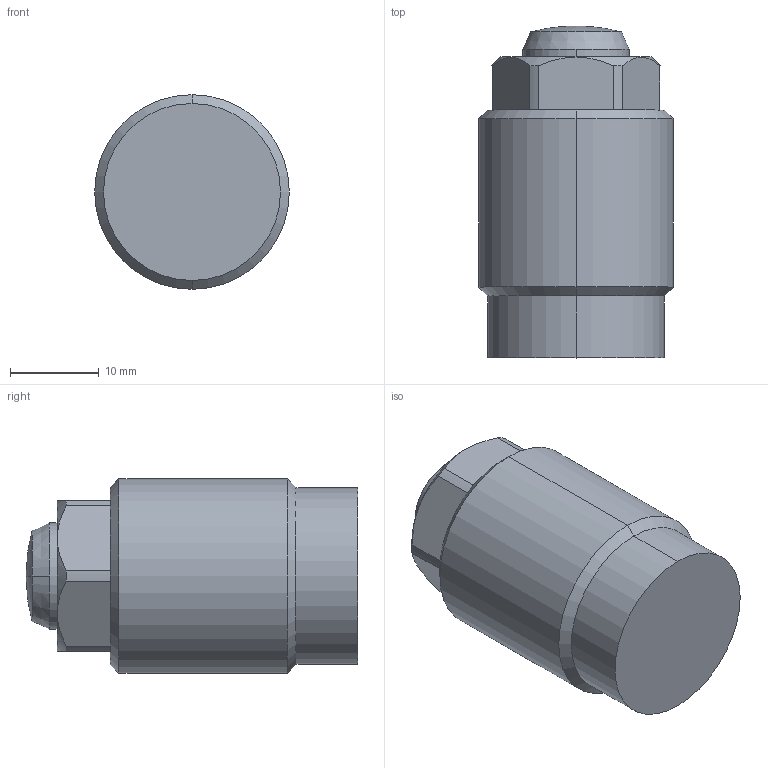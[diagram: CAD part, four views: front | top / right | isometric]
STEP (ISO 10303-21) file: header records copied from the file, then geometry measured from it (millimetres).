
FILE_DESCRIPTION (( 'STEP AP214' ), '1' );
FILE_NAME ('TC-12A.STEP', '2021-10-19T00:41:01', ( '' ), ( '' ), 'SwSTEP 2.0', 'SolidWorks 2016', '' );
FILE_SCHEMA (( 'AUTOMOTIVE_DESIGN' ));
Length unit declared in the file: millimetre
Products named in the file (1): TC-12A
Bounding box: 22 x 37.5 x 22 mm (x, y, z)
Volume: 11919.6 mm3; surface area: 2978.3 mm2
Topology: 1 solids, 1 shells, 31 faces, 74 edges, 47 vertices
Faces by surface type: cylinder 12, plane 9, cone 8, sphere 2
Entity records: 1010 total; most frequent: CARTESIAN_POINT 217, DIRECTION 164, ORIENTED_EDGE 148, EDGE_CURVE 74, AXIS2_PLACEMENT_3D 66, VERTEX_POINT 47, CIRCLE 34, EDGE_LOOP 33
